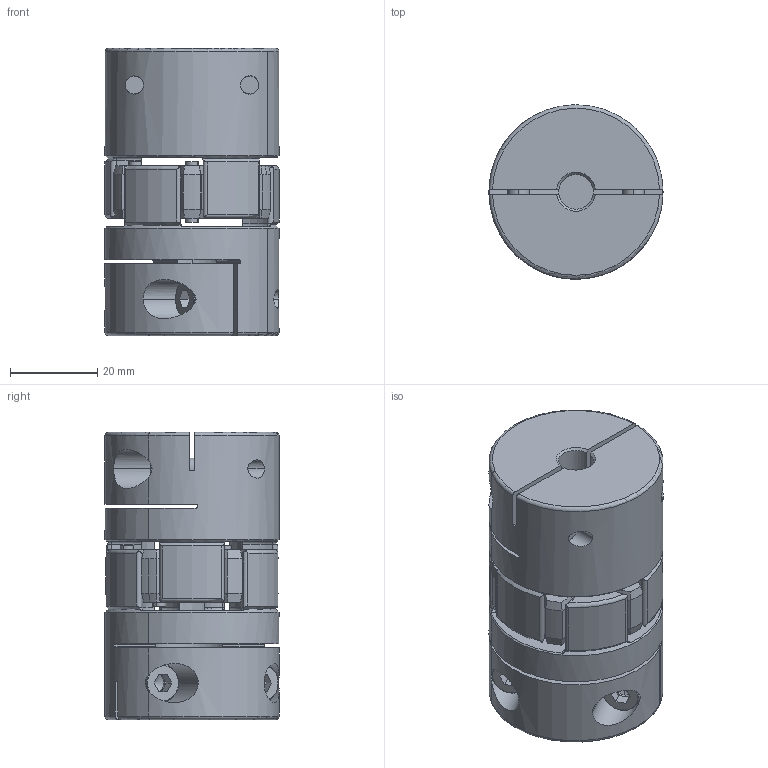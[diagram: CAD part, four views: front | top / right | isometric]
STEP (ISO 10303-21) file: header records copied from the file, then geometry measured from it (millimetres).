
FILE_DESCRIPTION (( 'STEP AP203' ), '1' );
FILE_NAME ('SJCB-40C-8X18_203.STEP', '2013-02-21T05:30:30', ( '' ), ( '' ), 'SwSTEP 2.0', 'SolidWorks 2012', '' );
FILE_SCHEMA (( 'CONFIG_CONTROL_DESIGN' ));
Length unit declared in the file: millimetre
Products named in the file (1): SJCB-40C-8X18_203
Bounding box: 40 x 40 x 66 mm (x, y, z)
Volume: 63505 mm3; surface area: 24359.5 mm2
Topology: 1 solids, 1 shells, 450 faces, 1168 edges, 716 vertices
Faces by surface type: cylinder 179, plane 110, cone 89, torus 72
Entity records: 14945 total; most frequent: CARTESIAN_POINT 3816, DIRECTION 2420, ORIENTED_EDGE 2320, EDGE_CURVE 1160, AXIS2_PLACEMENT_3D 1020, VERTEX_POINT 716, CIRCLE 569, EDGE_LOOP 486
